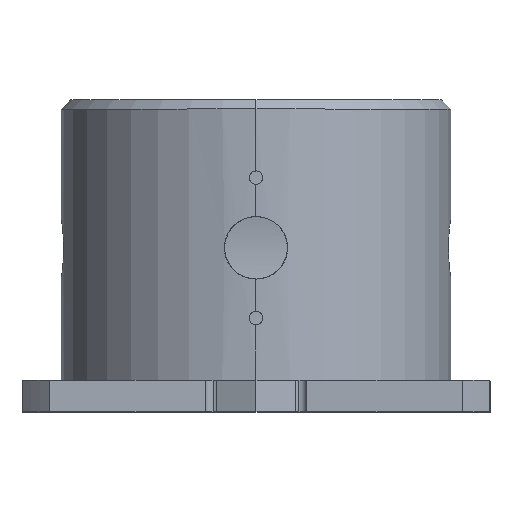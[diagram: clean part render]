
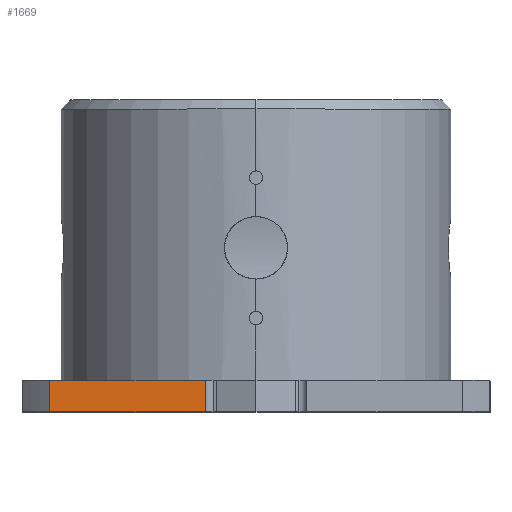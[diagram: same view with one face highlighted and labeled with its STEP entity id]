
A CAD part, top view. The second image highlights one B-rep face of the part: STEP entity #1669.
In plain terms, the highlighted planar face has unit normal (0, 0, 1).
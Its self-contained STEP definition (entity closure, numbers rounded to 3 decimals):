
#252 = DIRECTION ( 'NONE',  ( 0., 1., 0. ) ) ;
#536 = VERTEX_POINT ( 'NONE', #4678 ) ;
#597 = AXIS2_PLACEMENT_3D ( 'NONE', #3399, #7685, #11200 ) ;
#664 = CARTESIAN_POINT ( 'NONE',  ( -132.288, 20., 150. ) ) ;
#832 = DIRECTION ( 'NONE',  ( -1., 0., 0. ) ) ;
#1202 = VECTOR ( 'NONE', #252, 1000. ) ;
#1293 = VERTEX_POINT ( 'NONE', #664 ) ;
#1669 = ADVANCED_FACE ( 'NONE', ( #4202 ), #11025, .F. ) ;
#1689 = LINE ( 'NONE', #5805, #3444 ) ;
#1850 = EDGE_CURVE ( 'NONE', #10916, #1293, #10443, .T. ) ;
#2467 = VECTOR ( 'NONE', #832, 1000. ) ;
#2954 = EDGE_CURVE ( 'NONE', #5608, #536, #6051, .T. ) ;
#3399 = CARTESIAN_POINT ( 'NONE',  ( -32.5, 0., 150. ) ) ;
#3444 = VECTOR ( 'NONE', #11153, 1000. ) ;
#4202 = FACE_OUTER_BOUND ( 'NONE', #10393, .T. ) ;
#4634 = CARTESIAN_POINT ( 'NONE',  ( -132.288, 0., 150. ) ) ;
#4678 = CARTESIAN_POINT ( 'NONE',  ( -132.288, 0., 150. ) ) ;
#5303 = ORIENTED_EDGE ( 'NONE', *, *, #11206, .F. ) ;
#5608 = VERTEX_POINT ( 'NONE', #6042 ) ;
#5685 = ORIENTED_EDGE ( 'NONE', *, *, #2954, .F. ) ;
#5805 = CARTESIAN_POINT ( 'NONE',  ( -32.5, 0., 150. ) ) ;
#6042 = CARTESIAN_POINT ( 'NONE',  ( -32.5, 0., 150. ) ) ;
#6051 = LINE ( 'NONE', #8783, #2467 ) ;
#6359 = VECTOR ( 'NONE', #9565, 1000. ) ;
#6542 = EDGE_CURVE ( 'NONE', #5608, #10916, #1689, .T. ) ;
#7045 = CARTESIAN_POINT ( 'NONE',  ( -32.5, 20., 150. ) ) ;
#7685 = DIRECTION ( 'NONE',  ( 0., 0., -1. ) ) ;
#8783 = CARTESIAN_POINT ( 'NONE',  ( -32.5, 0., 150. ) ) ;
#9565 = DIRECTION ( 'NONE',  ( -1., 0., 0. ) ) ;
#9996 = LINE ( 'NONE', #4634, #1202 ) ;
#10199 = CARTESIAN_POINT ( 'NONE',  ( -32.5, 20., 150. ) ) ;
#10320 = ORIENTED_EDGE ( 'NONE', *, *, #6542, .T. ) ;
#10393 = EDGE_LOOP ( 'NONE', ( #10744, #5303, #5685, #10320 ) ) ;
#10443 = LINE ( 'NONE', #7045, #6359 ) ;
#10744 = ORIENTED_EDGE ( 'NONE', *, *, #1850, .T. ) ;
#10916 = VERTEX_POINT ( 'NONE', #10199 ) ;
#11025 = PLANE ( 'NONE',  #597 ) ;
#11153 = DIRECTION ( 'NONE',  ( 0., 1., 0. ) ) ;
#11200 = DIRECTION ( 'NONE',  ( -1., 0., 0. ) ) ;
#11206 = EDGE_CURVE ( 'NONE', #536, #1293, #9996, .T. ) ;
